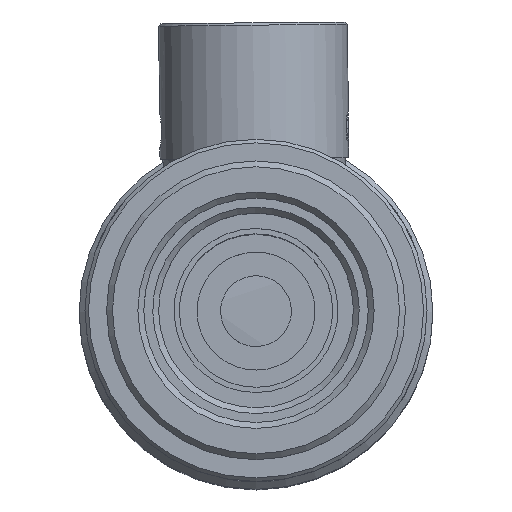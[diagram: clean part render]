
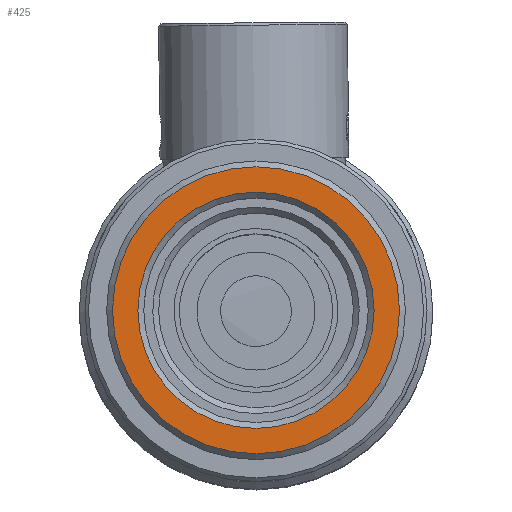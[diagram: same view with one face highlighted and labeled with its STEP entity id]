
A CAD part, top view. The second image highlights one B-rep face of the part: STEP entity #425.
In plain terms, the highlighted planar face has unit normal (0, 0, 1).
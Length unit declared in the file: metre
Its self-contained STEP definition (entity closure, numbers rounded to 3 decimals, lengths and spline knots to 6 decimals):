
#425=ADVANCED_FACE('NONE',(#1181,#1182),#1183,.F.);
#1181=FACE_BOUND('',#2402,.T.);
#1182=FACE_OUTER_BOUND('',#2403,.T.);
#1183=PLANE('',#2404);
#2402=EDGE_LOOP('',(#3819));
#2403=EDGE_LOOP('',(#3820));
#2404=AXIS2_PLACEMENT_3D('',#3821,#3822,#3823);
#3819=ORIENTED_EDGE('',*,*,#6369,.T.);
#3820=ORIENTED_EDGE('',*,*,#6370,.T.);
#3821=CARTESIAN_POINT('',(0.,0.01266,0.0));
#3822=DIRECTION('',(0.,0.0,-1.0));
#3823=DIRECTION('',(-1.0,0.0,0.));
#6369=EDGE_CURVE('NONE',#7424,#7424,#7425,.T.);
#6370=EDGE_CURVE('NONE',#7426,#7426,#7427,.T.);
#7424=VERTEX_POINT('',#9156);
#7425=CIRCLE('',#9157,0.01001);
#7426=VERTEX_POINT('',#9158);
#7427=CIRCLE('',#9159,0.01216);
#9156=CARTESIAN_POINT('',(-0.01001,0.0,0.));
#9157=AXIS2_PLACEMENT_3D('',#11387,#11388,#11389);
#9158=CARTESIAN_POINT('',(-0.01216,0.0,0.));
#9159=AXIS2_PLACEMENT_3D('',#11390,#11391,#11392);
#11387=CARTESIAN_POINT('',(0.,0.0,0.0));
#11388=DIRECTION('',(0.,0.0,-1.0));
#11389=DIRECTION('',(-1.0,0.0,0.));
#11390=CARTESIAN_POINT('',(0.,0.0,0.0));
#11391=DIRECTION('',(0.,0.0,1.0));
#11392=DIRECTION('',(-1.0,0.0,0.));
